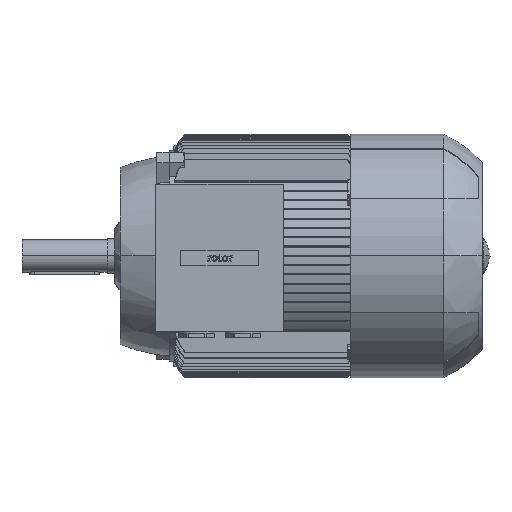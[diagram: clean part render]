
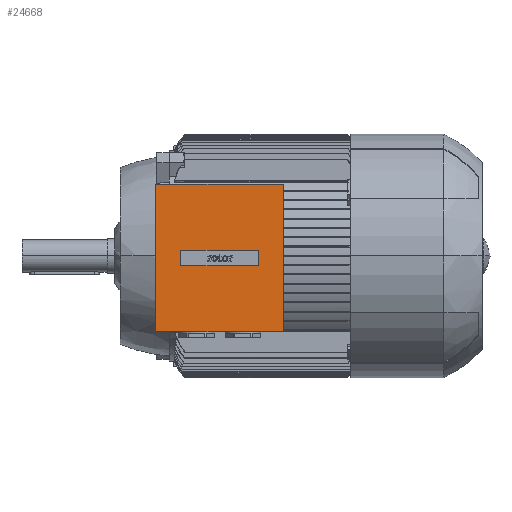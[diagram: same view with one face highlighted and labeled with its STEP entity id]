
A CAD part, top view. The second image highlights one B-rep face of the part: STEP entity #24668.
In plain terms, the highlighted planar face has unit normal (0, 0, 1).
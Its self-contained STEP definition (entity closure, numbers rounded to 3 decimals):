
#962 = ORIENTED_EDGE ( 'NONE', *, *, #13450, .T. ) ;
#963 = ORIENTED_EDGE ( 'NONE', *, *, #13458, .F. ) ;
#964 = ORIENTED_EDGE ( 'NONE', *, *, #13459, .T. ) ;
#965 = ORIENTED_EDGE ( 'NONE', *, *, #13469, .T. ) ;
#966 = ORIENTED_EDGE ( 'NONE', *, *, #16850, .T. ) ;
#967 = ORIENTED_EDGE ( 'NONE', *, *, #16849, .T. ) ;
#968 = ORIENTED_EDGE ( 'NONE', *, *, #16840, .T. ) ;
#969 = ORIENTED_EDGE ( 'NONE', *, *, #16852, .T. ) ;
#2697 = CARTESIAN_POINT ( 'NONE',  ( 65., 92., 265. ) ) ;
#2733 = DIRECTION ( 'NONE',  ( -1., 0., 0. ) ) ;
#2924 = LINE ( 'NONE', #13245, #2931 ) ;
#2930 = LINE ( 'NONE', #13343, #2950 ) ;
#2931 = VECTOR ( 'NONE', #13241, 1000. ) ;
#2944 = LINE ( 'NONE', #13347, #2948 ) ;
#2948 = VECTOR ( 'NONE', #13349, 1000. ) ;
#2949 = LINE ( 'NONE', #2697, #2953 ) ;
#2950 = VECTOR ( 'NONE', #13350, 1000. ) ;
#2953 = VECTOR ( 'NONE', #2733, 1000. ) ;
#4284 = AXIS2_PLACEMENT_3D ( 'NONE', #14471, #14470, #14475 ) ;
#10052 = EDGE_LOOP ( 'NONE', ( #966, #967, #968, #969 ) ) ;
#10054 = EDGE_LOOP ( 'NONE', ( #962, #963, #964, #965 ) ) ;
#11734 = LINE ( 'NONE', #11969, #11736 ) ;
#11736 = VECTOR ( 'NONE', #11970, 1000. ) ;
#11969 = CARTESIAN_POINT ( 'NONE',  ( 65., -13.05, 265. ) ) ;
#11970 = DIRECTION ( 'NONE',  ( -1., 0., 0. ) ) ;
#11993 = CARTESIAN_POINT ( 'NONE',  ( 15., -3., 265. ) ) ;
#11997 = CARTESIAN_POINT ( 'NONE',  ( 115., -3., 265. ) ) ;
#11998 = DIRECTION ( 'NONE',  ( 0., -1., 0. ) ) ;
#11999 = CARTESIAN_POINT ( 'NONE',  ( 65., 7.05, 265. ) ) ;
#12000 = DIRECTION ( 'NONE',  ( 1., 0., 0. ) ) ;
#12004 = DIRECTION ( 'NONE',  ( 0., 1., 0. ) ) ;
#13241 = DIRECTION ( 'NONE',  ( 0., -1., 0. ) ) ;
#13245 = CARTESIAN_POINT ( 'NONE',  ( -17.5, -3., 265. ) ) ;
#13343 = CARTESIAN_POINT ( 'NONE',  ( 147.5, -3., 265. ) ) ;
#13347 = CARTESIAN_POINT ( 'NONE',  ( 65., -98., 265. ) ) ;
#13349 = DIRECTION ( 'NONE',  ( -1., 0., 0. ) ) ;
#13350 = DIRECTION ( 'NONE',  ( 0., 1., 0. ) ) ;
#13450 = EDGE_CURVE ( 'NONE', #31618, #31576, #2924, .T. ) ;
#13458 = EDGE_CURVE ( 'NONE', #31650, #31576, #2944, .T. ) ;
#13459 = EDGE_CURVE ( 'NONE', #31650, #31597, #2930, .T. ) ;
#13469 = EDGE_CURVE ( 'NONE', #31597, #31618, #2949, .T. ) ;
#14470 = DIRECTION ( 'NONE',  ( 0., 0., 1. ) ) ;
#14471 = CARTESIAN_POINT ( 'NONE',  ( 65., -3., 265. ) ) ;
#14473 = PLANE ( 'NONE',  #4284 ) ;
#14475 = DIRECTION ( 'NONE',  ( 1., 0., 0. ) ) ;
#15214 = LINE ( 'NONE', #11997, #15217 ) ;
#15216 = LINE ( 'NONE', #11999, #15219 ) ;
#15217 = VECTOR ( 'NONE', #11998, 1000. ) ;
#15219 = VECTOR ( 'NONE', #12000, 1000. ) ;
#15223 = LINE ( 'NONE', #11993, #15224 ) ;
#15224 = VECTOR ( 'NONE', #12004, 1000. ) ;
#15893 = FACE_OUTER_BOUND ( 'NONE', #10054, .T. ) ;
#15897 = FACE_BOUND ( 'NONE', #10052, .T. ) ;
#16840 = EDGE_CURVE ( 'NONE', #31606, #31682, #11734, .T. ) ;
#16849 = EDGE_CURVE ( 'NONE', #31476, #31606, #15214, .T. ) ;
#16850 = EDGE_CURVE ( 'NONE', #31675, #31476, #15216, .T. ) ;
#16852 = EDGE_CURVE ( 'NONE', #31682, #31675, #15223, .T. ) ;
#20621 = CARTESIAN_POINT ( 'NONE',  ( -17.5, -98., 265. ) ) ;
#20642 = CARTESIAN_POINT ( 'NONE',  ( 147.5, 92., 265. ) ) ;
#20650 = CARTESIAN_POINT ( 'NONE',  ( 115., -13.05, 265. ) ) ;
#20660 = CARTESIAN_POINT ( 'NONE',  ( -17.5, 92., 265. ) ) ;
#20688 = CARTESIAN_POINT ( 'NONE',  ( 147.5, -98., 265. ) ) ;
#20711 = CARTESIAN_POINT ( 'NONE',  ( 15., 7.05, 265. ) ) ;
#20718 = CARTESIAN_POINT ( 'NONE',  ( 15., -13.05, 265. ) ) ;
#22039 = CARTESIAN_POINT ( 'NONE',  ( 115., 7.05, 265. ) ) ;
#24668 = ADVANCED_FACE ( 'NONE', ( #15893, #15897 ), #14473, .T. ) ;
#31476 = VERTEX_POINT ( 'NONE', #22039 ) ;
#31576 = VERTEX_POINT ( 'NONE', #20621 ) ;
#31597 = VERTEX_POINT ( 'NONE', #20642 ) ;
#31606 = VERTEX_POINT ( 'NONE', #20650 ) ;
#31618 = VERTEX_POINT ( 'NONE', #20660 ) ;
#31650 = VERTEX_POINT ( 'NONE', #20688 ) ;
#31675 = VERTEX_POINT ( 'NONE', #20711 ) ;
#31682 = VERTEX_POINT ( 'NONE', #20718 ) ;
